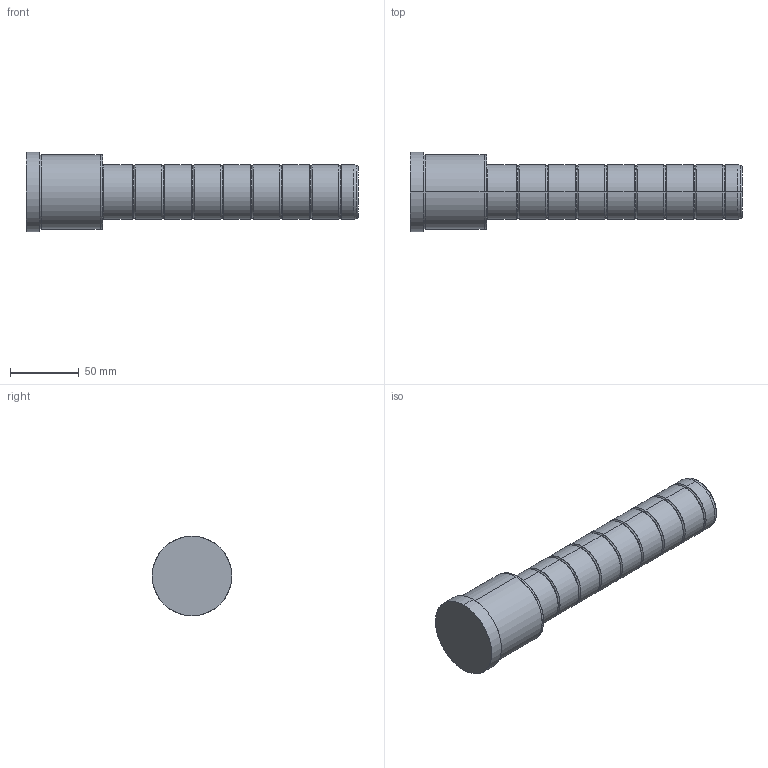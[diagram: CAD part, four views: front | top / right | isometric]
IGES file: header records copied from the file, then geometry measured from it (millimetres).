
Start section: SolidWorks IGES file using analytic representation for surfaces
Global section: file name: C:\Documents and Settings\kalite-mail\Desktop\IGS\D02\40\D02 - 40x56x186.IGS; native system: SolidWorks 2008; preprocessor: SolidWorks 2008; author: kalite-mail; date: 080617.100612; units: millimetre
Bounding box: 242 x 58 x 58 mm (x, y, z)
Surface area: 39138.8 mm2 (no closed solid volume)
Topology: 0 solids, 0 shells, 72 faces, 904 edges, 904 vertices
Faces by surface type: bspline 42, revolution 30
